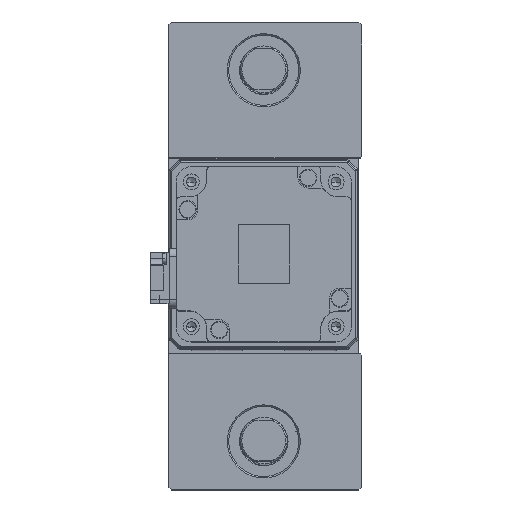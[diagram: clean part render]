
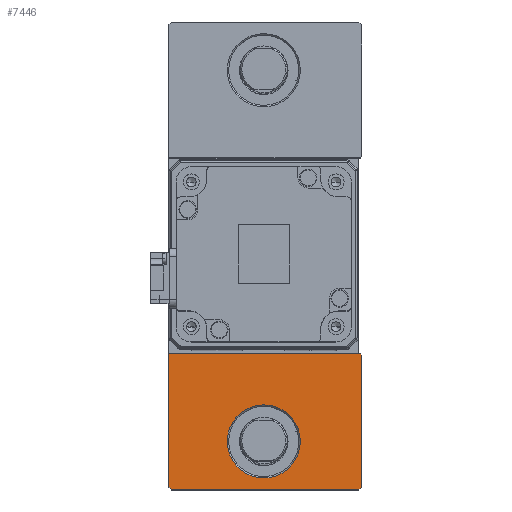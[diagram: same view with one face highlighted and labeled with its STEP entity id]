
A CAD part, top view. The second image highlights one B-rep face of the part: STEP entity #7446.
In plain terms, the highlighted planar face has unit normal (0, 0, 1).
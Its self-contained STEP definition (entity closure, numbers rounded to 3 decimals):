
#1317 = EDGE_CURVE ( 'NONE', #9407, #28832, #37890, .T. ) ;
#1349 = VECTOR ( 'NONE', #4540, 1000. ) ;
#1355 = VERTEX_POINT ( 'NONE', #31456 ) ;
#1683 = DIRECTION ( 'NONE',  ( 0.707, 0.707, 0. ) ) ;
#1979 = EDGE_CURVE ( 'NONE', #20501, #24283, #28549, .T. ) ;
#2656 = ORIENTED_EDGE ( 'NONE', *, *, #23718, .T. ) ;
#3182 = ORIENTED_EDGE ( 'NONE', *, *, #23846, .T. ) ;
#3496 = CIRCLE ( 'NONE', #4993, 12.5 ) ;
#3898 = VERTEX_POINT ( 'NONE', #26883 ) ;
#4036 = CARTESIAN_POINT ( 'NONE',  ( -0.25, -0.25, 25. ) ) ;
#4164 = DIRECTION ( 'NONE',  ( -0.707, 0.707, 0. ) ) ;
#4540 = DIRECTION ( 'NONE',  ( 0.707, -0.707, 0. ) ) ;
#4805 = DIRECTION ( 'NONE',  ( 0., -1., 0. ) ) ;
#4993 = AXIS2_PLACEMENT_3D ( 'NONE', #9408, #30107, #24079 ) ;
#6243 = CARTESIAN_POINT ( 'NONE',  ( 33.5, -34., 25. ) ) ;
#6328 = DIRECTION ( 'NONE',  ( 0., 0., 1. ) ) ;
#6880 = FACE_OUTER_BOUND ( 'NONE', #8729, .T. ) ;
#7446 = ADVANCED_FACE ( 'NONE', ( #14805, #6880 ), #35718, .T. ) ;
#8032 = VECTOR ( 'NONE', #4164, 1000. ) ;
#8379 = CARTESIAN_POINT ( 'NONE',  ( 33.5, -33.5, 25. ) ) ;
#8729 = EDGE_LOOP ( 'NONE', ( #3182, #29506, #19146, #27903, #22121, #18358, #2656 ) ) ;
#8733 = VECTOR ( 'NONE', #29858, 1000. ) ;
#9165 = CARTESIAN_POINT ( 'NONE',  ( -32.5, -33.5, 25. ) ) ;
#9265 = EDGE_CURVE ( 'NONE', #3898, #15914, #28476, .T. ) ;
#9407 = VERTEX_POINT ( 'NONE', #23534 ) ;
#9408 = CARTESIAN_POINT ( 'NONE',  ( 0., -63.5, 25. ) ) ;
#11430 = VERTEX_POINT ( 'NONE', #37804 ) ;
#12559 = EDGE_CURVE ( 'NONE', #15914, #38269, #19651, .T. ) ;
#13217 = CARTESIAN_POINT ( 'NONE',  ( 12.5, -63.5, 25. ) ) ;
#14308 = VECTOR ( 'NONE', #4805, 1000. ) ;
#14336 = LINE ( 'NONE', #31742, #16160 ) ;
#14805 = FACE_BOUND ( 'NONE', #19687, .T. ) ;
#15914 = VERTEX_POINT ( 'NONE', #24040 ) ;
#16160 = VECTOR ( 'NONE', #28880, 1000. ) ;
#16443 = CARTESIAN_POINT ( 'NONE',  ( 56.25, -56.25, 25. ) ) ;
#17350 = CARTESIAN_POINT ( 'NONE',  ( 0., -63.5, 25. ) ) ;
#17906 = EDGE_CURVE ( 'NONE', #11430, #9407, #32337, .T. ) ;
#18135 = CARTESIAN_POINT ( 'NONE',  ( 0., 0., 25. ) ) ;
#18358 = ORIENTED_EDGE ( 'NONE', *, *, #1317, .T. ) ;
#18948 = LINE ( 'NONE', #25254, #1349 ) ;
#19146 = ORIENTED_EDGE ( 'NONE', *, *, #12559, .T. ) ;
#19651 = LINE ( 'NONE', #8379, #27480 ) ;
#19687 = EDGE_LOOP ( 'NONE', ( #25534, #29117 ) ) ;
#20308 = DIRECTION ( 'NONE',  ( 1., 0., 0. ) ) ;
#20501 = VERTEX_POINT ( 'NONE', #21498 ) ;
#21498 = CARTESIAN_POINT ( 'NONE',  ( -12.5, -63.5, 25. ) ) ;
#22121 = ORIENTED_EDGE ( 'NONE', *, *, #17906, .T. ) ;
#23141 = DIRECTION ( 'NONE',  ( 0., 1., 0. ) ) ;
#23534 = CARTESIAN_POINT ( 'NONE',  ( -32.5, -33.5, 25. ) ) ;
#23718 = EDGE_CURVE ( 'NONE', #28832, #1355, #18948, .T. ) ;
#23794 = LINE ( 'NONE', #4036, #8032 ) ;
#23846 = EDGE_CURVE ( 'NONE', #1355, #3898, #14336, .T. ) ;
#24040 = CARTESIAN_POINT ( 'NONE',  ( 33.5, -79., 25. ) ) ;
#24079 = DIRECTION ( 'NONE',  ( 1., 0., 0. ) ) ;
#24283 = VERTEX_POINT ( 'NONE', #13217 ) ;
#25254 = CARTESIAN_POINT ( 'NONE',  ( -55.75, -55.75, 25. ) ) ;
#25534 = ORIENTED_EDGE ( 'NONE', *, *, #33374, .T. ) ;
#26883 = CARTESIAN_POINT ( 'NONE',  ( 32.5, -80., 25. ) ) ;
#27015 = DIRECTION ( 'NONE',  ( 1., 0., 0. ) ) ;
#27480 = VECTOR ( 'NONE', #23141, 1000. ) ;
#27552 = VECTOR ( 'NONE', #1683, 1000. ) ;
#27903 = ORIENTED_EDGE ( 'NONE', *, *, #34396, .T. ) ;
#28476 = LINE ( 'NONE', #16443, #27552 ) ;
#28549 = CIRCLE ( 'NONE', #34366, 12.5 ) ;
#28832 = VERTEX_POINT ( 'NONE', #38204 ) ;
#28880 = DIRECTION ( 'NONE',  ( 1., 0., 0. ) ) ;
#29117 = ORIENTED_EDGE ( 'NONE', *, *, #1979, .T. ) ;
#29506 = ORIENTED_EDGE ( 'NONE', *, *, #9265, .T. ) ;
#29858 = DIRECTION ( 'NONE',  ( -1., 0., 0. ) ) ;
#30107 = DIRECTION ( 'NONE',  ( 0., 0., -1. ) ) ;
#31456 = CARTESIAN_POINT ( 'NONE',  ( -31.5, -80., 25. ) ) ;
#31742 = CARTESIAN_POINT ( 'NONE',  ( -32.5, -80., 25. ) ) ;
#32337 = LINE ( 'NONE', #9165, #8733 ) ;
#33374 = EDGE_CURVE ( 'NONE', #24283, #20501, #3496, .T. ) ;
#34300 = CARTESIAN_POINT ( 'NONE',  ( -32.5, -33.5, 25. ) ) ;
#34366 = AXIS2_PLACEMENT_3D ( 'NONE', #17350, #38025, #20308 ) ;
#34396 = EDGE_CURVE ( 'NONE', #38269, #11430, #23794, .T. ) ;
#35718 = PLANE ( 'NONE',  #36032 ) ;
#36032 = AXIS2_PLACEMENT_3D ( 'NONE', #18135, #6328, #27015 ) ;
#37804 = CARTESIAN_POINT ( 'NONE',  ( 33., -33.5, 25. ) ) ;
#37890 = LINE ( 'NONE', #34300, #14308 ) ;
#38025 = DIRECTION ( 'NONE',  ( 0., 0., -1. ) ) ;
#38204 = CARTESIAN_POINT ( 'NONE',  ( -32.5, -79., 25. ) ) ;
#38269 = VERTEX_POINT ( 'NONE', #6243 ) ;
